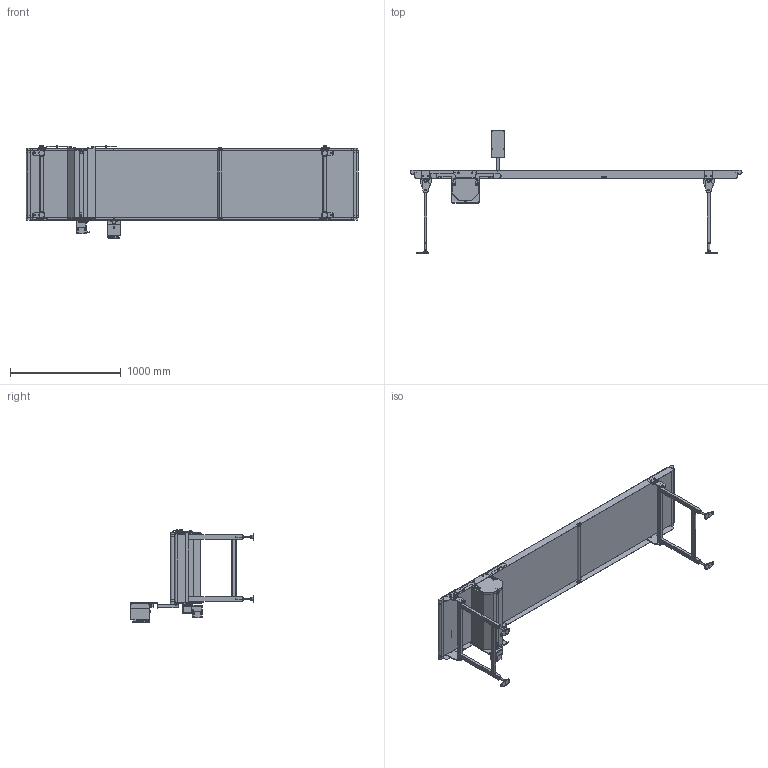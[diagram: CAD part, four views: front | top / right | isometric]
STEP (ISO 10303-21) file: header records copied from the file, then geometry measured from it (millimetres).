
FILE_DESCRIPTION( (''), '2;1');
FILE_NAME ('TBC-HH-309-600-300-R-DC-30.stp','2025-01-29T16:39:12',(''),(''),'spGate 20.6.2 (****-****-****-****)','','');
FILE_SCHEMA (('AUTOMOTIVE_DESIGN'));
Length unit declared in the file: millimetre
Products named in the file (96): NewModel; TEMP_X_T-prt0; TEMP_X_T-prt1; TEMP_X_T-prt2; TEMP_X_T-prt3; TEMP_X_T-prt4; TEMP_X_T-prt5; TEMP_X_T-prt6; TEMP_X_T-prt7; TEMP_X_T-prt8; TEMP_X_T-prt9; TEMP_X_T-prt10; TEMP_X_T-prt11; TEMP_X_T-prt12; TEMP_X_T-prt13; TEMP_X_T-prt14; TEMP_X_T-prt15; TEMP_X_T-prt16; TEMP_X_T-prt17; TEMP_X_T-prt18; TEMP_X_T-prt19; TEMP_X_T-prt20; TEMP_X_T-prt21; TEMP_X_T-prt22; TEMP_X_T-prt23; TEMP_X_T-prt24; TEMP_X_T-prt25; TEMP_X_T-prt26; TEMP_X_T-prt27; TEMP_X_T-prt28; TEMP_X_T-prt29; TEMP_X_T-prt30; TEMP_X_T-prt31; TEMP_X_T-prt32; TEMP_X_T-prt33; TEMP_X_T-prt34; TEMP_X_T-prt35; TEMP_X_T-prt36; TEMP_X_T-prt37; TEMP_X_T-prt38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
Assembly tree (95 placements, depth 2):
  NewModel
    TEMP_X_T-prt0
    TEMP_X_T-prt1
    TEMP_X_T-prt2
    TEMP_X_T-prt3
    TEMP_X_T-prt4
    TEMP_X_T-prt5
    TEMP_X_T-prt6
    TEMP_X_T-prt7
    TEMP_X_T-prt8
    TEMP_X_T-prt9
    TEMP_X_T-prt10
    TEMP_X_T-prt11
    TEMP_X_T-prt12
    TEMP_X_T-prt13
    TEMP_X_T-prt14
    TEMP_X_T-prt15
    TEMP_X_T-prt16
    TEMP_X_T-prt17
    TEMP_X_T-prt18
    TEMP_X_T-prt19
    TEMP_X_T-prt20
    TEMP_X_T-prt21
    TEMP_X_T-prt22
    TEMP_X_T-prt23
    TEMP_X_T-prt24
    TEMP_X_T-prt25
    TEMP_X_T-prt26
    TEMP_X_T-prt27
    TEMP_X_T-prt28
    TEMP_X_T-prt29
    TEMP_X_T-prt30
    TEMP_X_T-prt31
    TEMP_X_T-prt32
    TEMP_X_T-prt33
    TEMP_X_T-prt34
    TEMP_X_T-prt35
    TEMP_X_T-prt36
    TEMP_X_T-prt37
    TEMP_X_T-prt38
    TEMP_X_T-prt39
    TEMP_X_T-prt40
    TEMP_X_T-prt41
    TEMP_X_T-prt42
    TEMP_X_T-prt43
    TEMP_X_T-prt44
    TEMP_X_T-prt45
    TEMP_X_T-prt46
    TEMP_X_T-prt47
    TEMP_X_T-prt48
    TEMP_X_T-prt49
    TEMP_X_T-prt50
    TEMP_X_T-prt51
    TEMP_X_T-prt52
    TEMP_X_T-prt53
    TEMP_X_T-prt54
    TEMP_X_T-prt55
    TEMP_X_T-prt56
    TEMP_X_T-prt57
    TEMP_X_T-prt58
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Bounding box: 3002 x 1111 x 848.5 mm (x, y, z)
Volume: 51017283.3 mm3; surface area: 14554227.7 mm2
Topology: 95 solids, 95 shells, 2999 faces, 7295 edges, 4614 vertices
Faces by surface type: plane 1619, cylinder 824, bspline 544, sphere 12
Entity records: 157034 total; most frequent: CARTESIAN_POINT 27516, ORIENTED_EDGE 14526, DIRECTION 13693, COLOUR_RGB 10357, PRESENTATION_STYLE_ASSIGNMENT 10357, STYLED_ITEM 10357, EDGE_CURVE 7263, DRAUGHTING_PRE_DEFINED_CURVE_FONT 7263
